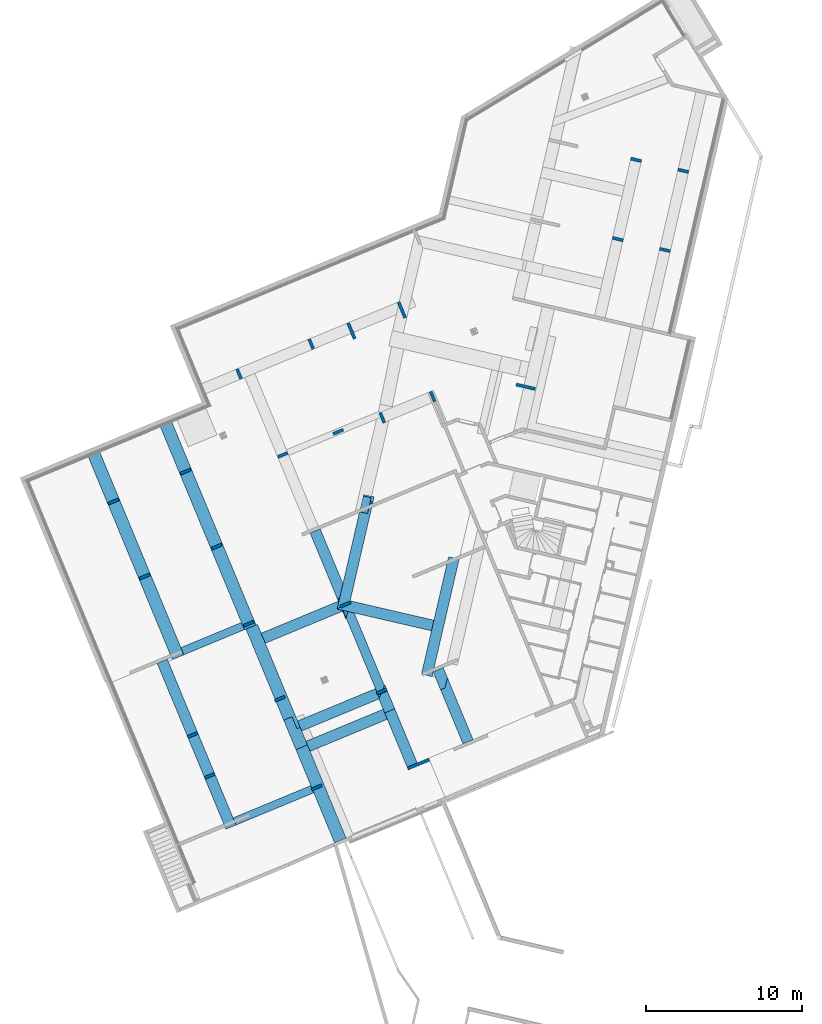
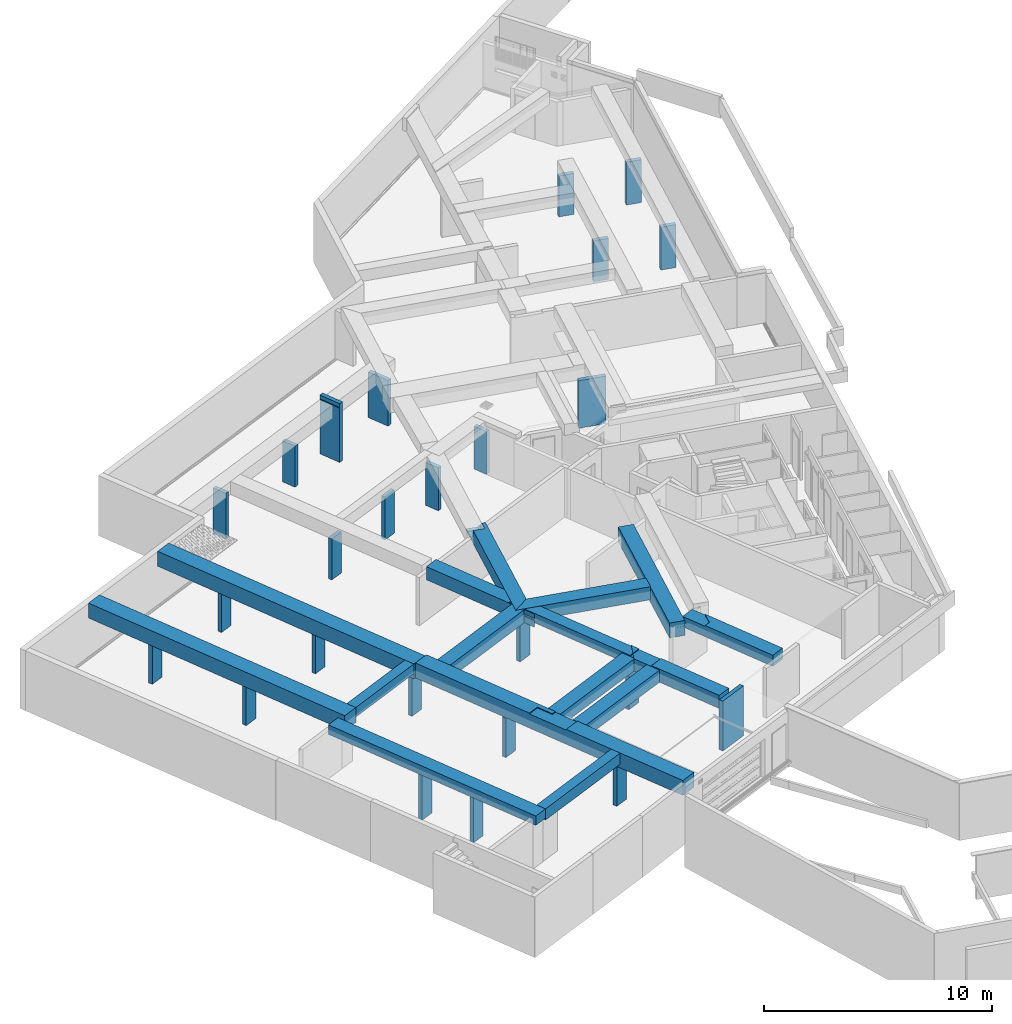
# One storey, part 3 of 20: 25 columns, 16 beams.
"""IFC2X3 building model written with IfcOpenShell, lengths in metres."""

from ifc_helpers import new_model, entity, si_unit, converted_unit, derived_unit, money_unit, direction, frame, origin_with_axes, place, context, subcontext, project, spatial, faceted_brep, material, type_object, element, save


model = new_model("IFC2X3")

# Units and contexts
model_context = context("Model", 3, precision=1e-05, world=origin_with_axes(), true_north=direction((0.0, 1.0)))
body_context = subcontext(model_context, "Body", "Model", "MODEL_VIEW")
ifc_project = project(units=[si_unit("LENGTHUNIT", "METRE"), si_unit("AREAUNIT", "SQUARE_METRE"), si_unit("VOLUMEUNIT", "CUBIC_METRE"), converted_unit("PLANEANGLEUNIT", "DEGREE", entity("IfcPlaneAngleMeasure", 0.0174532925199), si_unit("PLANEANGLEUNIT", "RADIAN"), dimensions=[0, 0, 0, 0, 0, 0, 0]), si_unit("SOLIDANGLEUNIT", "STERADIAN"), money_unit("EUR"), converted_unit("TIMEUNIT", "Year", entity("IfcTimeMeasure", 31556926.0), si_unit("TIMEUNIT", "SECOND"), dimensions=[0, 0, 1, 0, 0, 0, 0]), si_unit("MASSUNIT", "GRAM", prefix="KILO"), si_unit("THERMODYNAMICTEMPERATUREUNIT", "DEGREE_CELSIUS"), si_unit("LUMINOUSINTENSITYUNIT", "LUMEN"), si_unit("ENERGYUNIT", "JOULE", prefix="MEGA"), derived_unit("THERMALCONDUCTANCEUNIT", [(si_unit("POWERUNIT", "WATT"), 1), (si_unit("LENGTHUNIT", "METRE"), -1), (si_unit("THERMODYNAMICTEMPERATUREUNIT", "KELVIN"), -1)]), derived_unit("SPECIFICHEATCAPACITYUNIT", [(si_unit("ENERGYUNIT", "JOULE"), 1), (si_unit("MASSUNIT", "GRAM", prefix="KILO"), -1), (si_unit("THERMODYNAMICTEMPERATUREUNIT", "KELVIN"), -1)]), derived_unit("MASSDENSITYUNIT", [(si_unit("MASSUNIT", "GRAM", prefix="KILO"), 1), (si_unit("VOLUMEUNIT", "CUBIC_METRE"), -1)])], contexts=[model_context])

# Site, building, storey
site_placement = place(None, origin_with_axes())
site = spatial("IfcSite", under=ifc_project, at=site_placement, Name="Site", CompositionType="ELEMENT")
building_placement = place(site_placement, origin_with_axes())
building = spatial("IfcBuilding", under=site, at=building_placement, Name="Bâtiment", CompositionType="ELEMENT")
storey_placement = place(building_placement, frame((0.0, 0.0, -2.9), z_axis=(0.0, 0.0, 1.0), x_axis=(1.0, 0.0, 0.0)))
storey = spatial("IfcBuildingStorey", under=building, at=storey_placement, Name="Sous-sol", CompositionType="ELEMENT", Elevation=-2.9)

# Columns
ifc_material = material(Name="Béton")
column_type_1 = type_object("IfcColumnType", Name="Béton 200 x 700", PredefinedType="COLUMN")
column_1_placement = place(storey_placement, frame((-20.5314217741, -1.93745984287, 0.0), z_axis=(0.0, 0.0, 1.0), x_axis=(-0.383112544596, 0.923701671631, 0.0)))
element("IfcColumn", 1, at=column_1_placement, inside=storey, type_object=column_type_1, material=ifc_material, Name="Pot-002", ObjectType="COLUMN", context=body_context, shape_type="Brep", body=[
    faceted_brep([(-0.1, 0.35, 2.3), (0.1, 0.35, 2.3), (0.1, 0.35, 0.0), (-0.1, 0.35, 0.0), (-0.1, -0.35, 2.3), (0.1, -0.35, 2.3), (0.1, -0.35, 0.0), (-0.1, -0.35, 0.0)], [[[0, 1, 2, 3]], [[4, 5, 1, 0]], [[1, 5, 6, 2]], [[7, 3, 2, 6]], [[4, 0, 3, 7]], [[5, 4, 7, 6]]]),
])
for number, where, z_axis, x_axis, name in (
    (2, (-34.91941555, -6.4002306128, 0.0), (0.0, 0.0, 1.0), (0.383112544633, -0.923701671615, 0.0), "Pot-002"),
    (3, (-32.9265307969, -11.2051658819, 0.0), (0.0, 0.0, 1.0), (0.383112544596, -0.923701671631, 0.0), "Pot-002"),
):
    element("IfcColumn", number, at=place(storey_placement, frame(where, z_axis=z_axis, x_axis=x_axis)), inside=storey, type_object=column_type_1, material=ifc_material, Name=name, ObjectType="COLUMN", context=body_context, shape_type="Brep", body=[
        faceted_brep([(-0.1, 0.35, 2.1), (0.1, 0.35, 2.1), (0.1, 0.35, 0.0), (-0.1, 0.35, 0.0), (-0.1, -0.35, 2.1), (0.1, -0.35, 2.1), (0.1, -0.35, 0.0), (-0.1, -0.35, 0.0)], [[[0, 1, 2, 3]], [[4, 5, 1, 0]], [[1, 5, 6, 2]], [[7, 3, 2, 6]], [[4, 0, 3, 7]], [[5, 4, 7, 6]]]),
    ])
for number, where, z_axis, x_axis, name in (
    (4, (-17.7506110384, -18.5607654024, 0.0), (0.0, 0.0, 1.0), (0.383112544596, -0.923701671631, 0.0), "Pot-002"),
    (5, (-20.0575764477, -12.9985674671, 0.0), (0.0, 0.0, 1.0), (0.383112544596, -0.923701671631, 0.0), "Pot-002"),
):
    element("IfcColumn", number, at=place(storey_placement, frame(where, z_axis=z_axis, x_axis=x_axis)), inside=storey, type_object=column_type_1, material=ifc_material, Name=name, ObjectType="COLUMN", context=body_context, shape_type="Brep", body=[
        faceted_brep([(-0.1, 0.35, 2.2), (0.1, 0.35, 2.2), (0.1, 0.35, 0.0), (-0.1, 0.35, 0.0), (-0.1, -0.35, 2.2), (0.1, -0.35, 2.2), (0.1, -0.35, 0.0), (-0.1, -0.35, 0.0)], [[[0, 1, 2, 3]], [[4, 5, 1, 0]], [[1, 5, 6, 2]], [[7, 3, 2, 6]], [[4, 0, 3, 7]], [[5, 4, 7, 6]]]),
    ])
for number, where, z_axis, x_axis, name in (
    (6, (-30.300907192, -4.48466788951, 0.0), (0.0, 0.0, 1.0), (0.383112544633, -0.923701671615, 0.0), "Pot-002"),
    (7, (-28.3080224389, -9.28960315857, 0.0), (0.0, 0.0, 1.0), (0.383112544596, -0.923701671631, 0.0), "Pot-002"),
):
    element("IfcColumn", number, at=place(storey_placement, frame(where, z_axis=z_axis, x_axis=x_axis)), inside=storey, type_object=column_type_1, material=ifc_material, Name=name, ObjectType="COLUMN", context=body_context, shape_type="Brep", body=[
        faceted_brep([(-0.1, 0.35, 2.1), (0.1, 0.35, 2.1), (0.1, 0.35, 0.0), (-0.1, 0.35, 0.0), (-0.1, -0.35, 2.1), (0.1, -0.35, 2.1), (0.1, -0.35, 0.0), (-0.1, -0.35, 0.0)], [[[0, 1, 2, 3]], [[4, 5, 1, 0]], [[1, 5, 6, 2]], [[7, 3, 2, 6]], [[4, 0, 3, 7]], [[5, 4, 7, 6]]]),
    ])
column_2_placement = place(storey_placement, frame((-24.2670847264, -19.0324867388, 0.0), z_axis=(0.0, 0.0, 1.0), x_axis=(0.383112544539, -0.923701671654, 0.0)))
element("IfcColumn", 8, at=column_2_placement, inside=storey, type_object=column_type_1, material=ifc_material, Name="Pot-002", ObjectType="COLUMN", context=body_context, shape_type="Brep", body=[
    faceted_brep([(0.1, -0.35, 2.1), (-0.1, -0.35, 2.1), (-0.1, -0.35, 0.0), (0.1, -0.35, 0.0), (0.1, 0.35, 2.1), (-0.1, 0.35, 2.1), (-0.1, 0.35, 0.0), (0.1, 0.35, 0.0)], [[[0, 1, 2, 3]], [[4, 5, 1, 0]], [[1, 5, 6, 2]], [[7, 3, 2, 6]], [[4, 0, 3, 7]], [[5, 4, 7, 6]]]),
])
column_3_placement = place(storey_placement, frame((-26.2595863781, -14.2284751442, 0.0), z_axis=(0.0, 0.0, 1.0), x_axis=(0.383112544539, -0.923701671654, 0.0)))
element("IfcColumn", 9, at=column_3_placement, inside=storey, type_object=column_type_1, material=ifc_material, Name="Pot-002", ObjectType="COLUMN", context=body_context, shape_type="Brep", body=[
    faceted_brep([(0.1, -0.35, 2.55500000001), (-0.1, -0.35, 2.55500000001), (-0.1, -0.35, 0.0), (0.1, -0.35, 0.0), (0.1, 0.35, 2.55500000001), (-0.1, 0.35, 2.55500000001), (-0.1, 0.35, 0.0), (0.1, 0.35, 0.0)], [[[0, 1, 2, 3]], [[4, 5, 1, 0]], [[1, 5, 6, 2]], [[7, 3, 2, 6]], [[4, 0, 3, 7]], [[5, 4, 7, 6]]]),
])
column_4_placement = place(storey_placement, frame((-21.9142521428, -24.705272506, 0.0), z_axis=(0.0, 0.0, 1.0), x_axis=(0.383112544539, -0.923701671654, 0.0)))
element("IfcColumn", 10, at=column_4_placement, inside=storey, type_object=column_type_1, material=ifc_material, Name="Pot-002", ObjectType="COLUMN", context=body_context, shape_type="Brep", body=[
    faceted_brep([(0.1, -0.35, 2.1), (-0.1, -0.35, 2.1), (-0.1, -0.35, 0.0), (0.1, -0.35, 0.0), (0.1, 0.35, 2.1), (-0.1, 0.35, 2.1), (-0.1, 0.35, 0.0), (0.1, 0.35, 0.0)], [[[0, 1, 2, 3]], [[4, 5, 1, 0]], [[1, 5, 6, 2]], [[7, 3, 2, 6]], [[4, 0, 3, 7]], [[5, 4, 7, 6]]]),
])
column_5_placement = place(storey_placement, frame((-17.7107237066, -1.03820325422, 0.0), z_axis=(0.0, 0.0, 1.0), x_axis=(0.923701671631, 0.383112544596, 0.0)))
element("IfcColumn", 11, at=column_5_placement, inside=storey, type_object=column_type_1, material=ifc_material, Name="Pot-002", ObjectType="COLUMN", context=body_context, shape_type="Brep", body=[
    faceted_brep([(-0.1, 0.35, 2.3), (0.1, 0.35, 2.3), (0.1, 0.35, 0.0), (-0.1, 0.35, 0.0), (-0.1, -0.35, 2.3), (0.1, -0.35, 2.3), (0.1, -0.35, 0.0), (-0.1, -0.35, 0.0)], [[[0, 1, 2, 3]], [[4, 5, 1, 0]], [[1, 5, 6, 2]], [[7, 3, 2, 6]], [[4, 0, 3, 7]], [[5, 4, 7, 6]]]),
])
column_6_placement = place(storey_placement, frame((-2.62843882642, 10.4007564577, 0.0), z_axis=(0.0, 0.0, 1.0), x_axis=(0.224876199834, 0.974387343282, 0.0)))
element("IfcColumn", 12, at=column_6_placement, inside=storey, type_object=column_type_1, material=ifc_material, Name="Pot-002", ObjectType="COLUMN", context=body_context, shape_type="Brep", body=[
    faceted_brep([(-0.1, 0.35, 2.2), (0.1, 0.35, 2.2), (0.1, 0.35, 0.0), (-0.1, 0.35, 0.0), (-0.1, -0.35, 2.2), (0.1, -0.35, 2.2), (0.1, -0.35, 0.0), (-0.1, -0.35, 0.0)], [[[0, 1, 2, 3]], [[4, 5, 1, 0]], [[1, 5, 6, 2]], [[7, 3, 2, 6]], [[4, 0, 3, 7]], [[5, 4, 7, 6]]]),
])
column_7_placement = place(storey_placement, frame((-26.8798801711, 1.76530756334, 0.0), z_axis=(0.0, 0.0, 1.0), x_axis=(0.923701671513, 0.38311254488, 0.0)))
element("IfcColumn", 13, at=column_7_placement, inside=storey, type_object=column_type_1, material=ifc_material, Name="Pot-002", ObjectType="COLUMN", context=body_context, shape_type="Brep", body=[
    faceted_brep([(-0.1, 0.35, 2.45), (0.1, 0.35, 2.45), (0.1, 0.35, 0.0), (-0.1, 0.35, 0.0), (-0.1, -0.35, 2.45), (0.1, -0.35, 2.45), (0.1, -0.35, 0.0), (-0.1, -0.35, 0.0)], [[[0, 1, 2, 3]], [[4, 5, 1, 0]], [[1, 5, 6, 2]], [[7, 3, 2, 6]], [[4, 0, 3, 7]], [[5, 4, 7, 6]]]),
])
column_8_placement = place(storey_placement, frame((0.392161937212, 9.70364023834, 0.0), z_axis=(0.0, 0.0, 1.0), x_axis=(0.224876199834, 0.974387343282, 0.0)))
element("IfcColumn", 14, at=column_8_placement, inside=storey, type_object=column_type_1, material=ifc_material, Name="Pot-002", ObjectType="COLUMN", context=body_context, shape_type="Brep", body=[
    faceted_brep([(-0.1, 0.35, 2.3), (0.1, 0.35, 2.3), (0.1, 0.35, 0.0), (-0.1, 0.35, 0.0), (-0.1, -0.35, 2.3), (0.1, -0.35, 2.3), (0.1, -0.35, 0.0), (-0.1, -0.35, 0.0)], [[[0, 1, 2, 3]], [[4, 5, 1, 0]], [[1, 5, 6, 2]], [[7, 3, 2, 6]], [[4, 0, 3, 7]], [[5, 4, 7, 6]]]),
])
for number, where, z_axis, x_axis, name in (
    (15, (-22.2614884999, 3.68075065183, 0.0), (0.0, 0.0, 1.0), (0.923701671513, 0.38311254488, 0.0), "Pot-002"),
    (16, (-1.45757992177, 15.4740816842, 0.0), (0.0, 0.0, 1.0), (0.224876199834, 0.974387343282, 0.0), "Pot-002"),
):
    element("IfcColumn", number, at=place(storey_placement, frame(where, z_axis=z_axis, x_axis=x_axis)), inside=storey, type_object=column_type_1, material=ifc_material, Name=name, ObjectType="COLUMN", context=body_context, shape_type="Brep", body=[
        faceted_brep([(-0.1, 0.35, 2.2), (0.1, 0.35, 2.2), (0.1, 0.35, 0.0), (-0.1, 0.35, 0.0), (-0.1, -0.35, 2.2), (0.1, -0.35, 2.2), (0.1, -0.35, 0.0), (-0.1, -0.35, 0.0)], [[[0, 1, 2, 3]], [[4, 5, 1, 0]], [[1, 5, 6, 2]], [[7, 3, 2, 6]], [[4, 0, 3, 7]], [[5, 4, 7, 6]]]),
    ])
column_9_placement = place(storey_placement, frame((1.5630208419, 14.7769654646, 0.0), z_axis=(0.0, 0.0, 1.0), x_axis=(0.224876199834, 0.974387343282, 0.0)))
element("IfcColumn", 17, at=column_9_placement, inside=storey, type_object=column_type_1, material=ifc_material, Name="Pot-002", ObjectType="COLUMN", context=body_context, shape_type="Brep", body=[
    faceted_brep([(-0.1, 0.35, 2.3), (0.1, 0.35, 2.3), (0.1, 0.35, 0.0), (-0.1, 0.35, 0.0), (-0.1, -0.35, 2.3), (0.1, -0.35, 2.3), (0.1, -0.35, 0.0), (-0.1, -0.35, 0.0)], [[[0, 1, 2, 3]], [[4, 5, 1, 0]], [[1, 5, 6, 2]], [[7, 3, 2, 6]], [[4, 0, 3, 7]], [[5, 4, 7, 6]]]),
])
column_10_placement = place(storey_placement, frame((-24.0844179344, -3.42051127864, 0.0), z_axis=(0.0, 0.0, 1.0), x_axis=(-0.383112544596, 0.923701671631, 0.0)))
element("IfcColumn", 18, at=column_10_placement, inside=storey, type_object=column_type_1, material=ifc_material, Name="Pot-002", ObjectType="COLUMN", context=body_context, shape_type="Brep", body=[
    faceted_brep([(-0.1, 0.35, 2.2), (0.1, 0.35, 2.2), (0.1, 0.35, 0.0), (-0.1, 0.35, 0.0), (-0.1, -0.35, 2.2), (0.1, -0.35, 2.2), (0.1, -0.35, 0.0), (-0.1, -0.35, 0.0)], [[[0, 1, 2, 3]], [[4, 5, 1, 0]], [[1, 5, 6, 2]], [[7, 3, 2, 6]], [[4, 0, 3, 7]], [[5, 4, 7, 6]]]),
])
for number, where, z_axis, x_axis, name in (
    (19, (-29.8551311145, -21.3501729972, 0.0), (0.0, 0.0, 1.0), (0.383112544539, -0.923701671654, 0.0), "Pot-002"),
    (20, (-28.7667083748, -23.9744094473, 0.0), (0.0, 0.0, 1.0), (0.383112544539, -0.923701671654, 0.0), "Pot-002"),
):
    element("IfcColumn", number, at=place(storey_placement, frame(where, z_axis=z_axis, x_axis=x_axis)), inside=storey, type_object=column_type_1, material=ifc_material, Name=name, ObjectType="COLUMN", context=body_context, shape_type="Brep", body=[
        faceted_brep([(0.1, -0.35, 2.4), (-0.1, -0.35, 2.4), (-0.1, -0.35, 0.0), (0.1, -0.35, 0.0), (0.1, 0.35, 2.4), (-0.1, 0.35, 2.4), (-0.1, 0.35, 0.0), (0.1, 0.35, 0.0)], [[[0, 1, 2, 3]], [[4, 5, 1, 0]], [[1, 5, 6, 2]], [[7, 3, 2, 6]], [[4, 0, 3, 7]], [[5, 4, 7, 6]]]),
    ])
column_11_placement = place(storey_placement, frame((-14.4835857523, 0.316717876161, 0.0), z_axis=(0.0, 0.0, 1.0), x_axis=(0.923701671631, 0.383112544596, 0.0)))
element("IfcColumn", 21, at=column_11_placement, inside=storey, type_object=column_type_1, material=ifc_material, Name="Pot-002", ObjectType="COLUMN", context=body_context, shape_type="Brep", body=[
    faceted_brep([(-0.1, 0.35, 2.3), (0.1, 0.35, 2.3), (0.1, 0.35, 0.0), (-0.1, 0.35, 0.0), (-0.1, -0.35, 2.3), (0.1, -0.35, 2.3), (0.1, -0.35, 0.0), (-0.1, -0.35, 0.0)], [[[0, 1, 2, 3]], [[4, 5, 1, 0]], [[1, 5, 6, 2]], [[7, 3, 2, 6]], [[4, 0, 3, 7]], [[5, 4, 7, 6]]]),
])
column_type_2 = type_object("IfcColumnType", Name="Béton 200 x 1500", PredefinedType="COLUMN")
column_12_placement = place(storey_placement, frame((-15.3889451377, -23.2107690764, 0.0), z_axis=(0.0, 0.0, 1.0), x_axis=(0.383112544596, -0.923701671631, 0.0)))
element("IfcColumn", 22, at=column_12_placement, inside=storey, type_object=column_type_2, material=ifc_material, Name="Pot-002", ObjectType="COLUMN", context=body_context, shape_type="Brep", body=[
    faceted_brep([(-0.1, 0.749999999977, 2.67), (-0.1, -0.74990886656, 2.67), (0.1, -0.749999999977, 2.67), (0.1, 0.749999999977, 2.67), (-0.1, -0.749999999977, 2.55), (-0.1, -0.74990886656, 2.55), (-0.1, 0.749999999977, 0.0), (-0.1, -0.749999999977, 0.0), (0.1, -0.749999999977, 2.55), (0.1, -0.749999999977, 0.0), (0.1, 0.749999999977, 0.0)], [[[0, 1, 2, 3]], [[4, 5, 1, 0, 6, 7]], [[5, 8, 2, 1]], [[3, 2, 8, 9, 10]], [[0, 3, 10, 6]], [[5, 4, 8]], [[7, 6, 10, 9]], [[9, 8, 4, 7]]]),
])
column_type_3 = type_object("IfcColumnType", Name="Béton 200 x 1100", PredefinedType="COLUMN")
column_13_placement = place(storey_placement, frame((-19.6887386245, 4.52928208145, 0.0), z_axis=(0.0, 0.0, 1.0), x_axis=(0.923701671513, 0.38311254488, 0.0)))
element("IfcColumn", 23, at=column_13_placement, inside=storey, type_object=column_type_3, material=ifc_material, Name="Pot-002", ObjectType="COLUMN", context=body_context, shape_type="Brep", body=[
    faceted_brep([(0.1, 0.55, 0.0), (0.1, 0.55, 2.91), (0.1, -0.256619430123, 2.91), (0.1, -0.256619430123, 2.95), (0.1, 0.55, 2.95), (0.1, 0.55, 3.15), (0.1, -0.55, 3.15), (0.1, -0.55, 0.0), (-0.1, 0.55, 0.0), (-0.1, 0.55, 2.91), (-0.1, -0.536779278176, 2.91), (-0.1, -0.536779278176, 2.95), (-0.1, 0.55, 2.95), (-0.1, 0.55, 3.15), (-0.1, -0.55, 3.15), (-0.1, -0.55, 0.0)], [[[0, 1, 2, 3, 4, 5, 6, 7]], [[8, 9, 1, 0]], [[10, 2, 1, 9]], [[11, 3, 2, 10]], [[12, 4, 3, 11]], [[5, 4, 12, 13]], [[14, 6, 5, 13]], [[6, 14, 15, 7]], [[15, 8, 0, 7]], [[11, 10, 9, 8, 15, 14, 13, 12]]]),
])
column_14_placement = place(storey_placement, frame((-16.4572015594, 5.8695875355, 0.0), z_axis=(0.0, 0.0, 1.0), x_axis=(0.923701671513, 0.38311254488, 0.0)))
element("IfcColumn", 24, at=column_14_placement, inside=storey, type_object=column_type_3, material=ifc_material, Name="Pot-002", ObjectType="COLUMN", context=body_context, shape_type="Brep", body=[
    faceted_brep([(-0.1, 0.55, 2.45), (0.1, 0.55, 2.45), (0.1, 0.55, 0.0), (-0.1, 0.55, 0.0), (-0.1, -0.55, 2.45), (0.1, -0.55, 2.45), (0.1, -0.55, 0.0), (-0.1, -0.55, 0.0)], [[[0, 1, 2, 3]], [[4, 5, 1, 0]], [[1, 5, 6, 2]], [[7, 3, 2, 6]], [[4, 0, 3, 7]], [[5, 4, 7, 6]]]),
])
column_type_4 = type_object("IfcColumnType", Name="Béton 200 x 1260", PredefinedType="COLUMN")
column_15_placement = place(storey_placement, frame((-8.52941643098, 0.947299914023, 0.0), z_axis=(0.0, 0.0, 1.0), x_axis=(0.224876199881, 0.974387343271, 0.0)))
element("IfcColumn", 25, at=column_15_placement, inside=storey, type_object=column_type_4, material=ifc_material, Name="Pot-002", ObjectType="COLUMN", context=body_context, shape_type="Brep", body=[
    faceted_brep([(-0.1, 0.63, 2.55), (0.1, 0.63, 2.55), (0.1, 0.63, 0.0), (-0.1, 0.63, 0.0), (-0.1, -0.63, 2.55), (0.1, -0.63, 2.55), (0.1, -0.63, 0.0), (-0.1, -0.63, 0.0)], [[[0, 1, 2, 3]], [[4, 5, 1, 0]], [[1, 5, 6, 2]], [[7, 3, 2, 6]], [[4, 0, 3, 7]], [[5, 4, 7, 6]]]),
])

# Beams
beam_type_1 = type_object("IfcBeamType", Name="Béton 500 x 600", PredefinedType="BEAM")
beam_1_placement = place(storey_placement, frame((-27.170867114, -26.8885157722, 2.9), z_axis=(0.0, 0.0, 1.0), x_axis=(0.383112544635, -0.923701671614, 0.0)))
element("IfcBeam", 26, at=beam_1_placement, inside=storey, type_object=beam_type_1, material=ifc_material, Name="PoBA-002", ObjectType="BEAM", context=body_context, shape_type="Brep", body=[
    faceted_brep([(0.25, 5.39197192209, -0.6), (0.25, 0.0, -0.6), (-0.25, 0.0, -0.6), (-0.25, 5.39197192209, -0.6), (0.25, 5.39197192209, 0.0), (0.25, 0.0, 0.0), (-0.25, 0.0, 0.0), (-0.25, 5.39197192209, 0.0)], [[[0, 1, 2, 3]], [[4, 5, 1, 0]], [[1, 5, 6, 2]], [[3, 2, 6, 7]], [[7, 4, 0, 3]], [[7, 6, 5, 4]]]),
])
beam_type_2 = type_object("IfcBeamType", Name="Béton 800 x 800", PredefinedType="BEAM")
beam_2_placement = place(storey_placement, frame((-31.6035596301, -1.34391394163, 2.9), z_axis=(0.0, 0.0, 1.0), x_axis=(-0.923701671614, -0.383112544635, 0.0)))
element("IfcBeam", 27, at=beam_2_placement, inside=storey, type_object=beam_type_2, material=ifc_material, Name="PoBA-002", ObjectType="BEAM", context=body_context, shape_type="Brep", body=[
    faceted_brep([(-0.4, 0.0, -0.8), (-0.4, 14.1954480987, -0.8), (0.4, 14.1954480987, -0.8), (0.4, 0.0, -0.8), (-0.349999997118, 13.8488339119, -0.8), (0.350000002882, 13.8488339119, -0.8), (0.350000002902, 14.0488339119, -0.8), (-0.349999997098, 14.0488339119, -0.8), (-0.4, 0.0, 0.0), (-0.4, 14.1954480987, 0.0), (0.4, 14.1954480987, 0.0), (0.4, 0.0, 0.0), (0.350000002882, 13.8488339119, -0.344999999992), (-0.349999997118, 13.8488339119, -0.344999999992), (0.350000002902, 14.0488339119, -0.344999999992), (-0.349999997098, 14.0488339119, -0.344999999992)], [[[0, 1, 2, 3], [4, 5, 6, 7]], [[8, 9, 1, 0]], [[2, 1, 9, 10]], [[3, 2, 10, 11]], [[8, 0, 3, 11]], [[12, 5, 4, 13]], [[14, 6, 5, 12]], [[15, 7, 6, 14]], [[13, 4, 7, 15]], [[11, 10, 9, 8]], [[12, 13, 15, 14]]]),
])
beam_3_placement = place(storey_placement, frame((-36.2220679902, -3.25947666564, 2.9), z_axis=(0.0, 0.0, 1.0), x_axis=(-0.923701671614, -0.383112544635, 0.0)))
element("IfcBeam", 28, at=beam_3_placement, inside=storey, type_object=beam_type_2, material=ifc_material, Name="PoBA-002", ObjectType="BEAM", context=body_context, shape_type="Brep", body=[
    faceted_brep([(-0.4, 14.1954480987, -0.8), (0.4, 14.1954480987, -0.8), (0.4, 0.0, -0.8), (-0.4, 0.0, -0.8), (-0.4, 14.1954480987, 0.0), (0.4, 14.1954480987, 0.0), (0.4, 0.0, 0.0), (-0.4, 0.0, 0.0)], [[[0, 1, 2, 3]], [[0, 4, 5, 1]], [[1, 5, 6, 2]], [[3, 2, 6, 7]], [[4, 0, 3, 7]], [[5, 4, 7, 6]]]),
])
beam_4_placement = place(storey_placement, frame((-26.0727352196, -14.4179618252, 2.9), z_axis=(0.0, 0.0, 1.0), x_axis=(-0.923701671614, -0.383112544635, 0.0)))
element("IfcBeam", 29, at=beam_4_placement, inside=storey, type_object=beam_type_2, material=ifc_material, Name="PoBA-002", ObjectType="BEAM", context=body_context, shape_type="Brep", body=[
    faceted_brep([(-0.4, 0.0, 0.0), (-0.4, 7.14788059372, 0.0), (-0.4, 7.14788059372, -0.045), (-0.4, 8.35970646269, -0.045), (-0.4, 8.35970646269, 0.0), (-0.4, 14.8189292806, 0.0), (-0.4, 14.8189292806, -0.8), (-0.4, 0.0, -0.8), (0.4, 6.3178933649, 0.0), (-0.178016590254, 6.31421173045, 0.0), (-0.178016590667, 7.14812397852, 0.0), (0.4, 0.0, 0.0), (-0.178016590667, 7.14812397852, -0.045), (0.4, 6.3178933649, -0.045), (0.4, 8.35899999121, -0.045), (-0.178016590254, 6.31421173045, -0.045), (0.4, 8.35899999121, 0.0), (0.4, 14.8189292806, 0.0), (0.4, 14.8189292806, -0.8), (0.4, 0.0, -0.8)], [[[0, 1, 2, 3, 4, 5, 6, 7]], [[8, 9, 10, 1, 0, 11]], [[10, 12, 2, 1]], [[13, 14, 3, 2, 12, 15]], [[3, 14, 16, 4]], [[17, 5, 4, 16]], [[18, 6, 5, 17]], [[7, 6, 18, 19]], [[0, 7, 19, 11]], [[13, 15, 9, 8]], [[15, 12, 10, 9]], [[16, 14, 13, 8, 11, 19, 18, 17]]]),
])
beam_type_3 = type_object("IfcBeamType", Name="Béton 500 x 510", PredefinedType="BEAM")
beam_5_placement = place(storey_placement, frame((-30.5099112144, -15.987665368, 2.9), z_axis=(0.0, 0.0, 1.0), x_axis=(0.383112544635, -0.923701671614, 0.0)))
element("IfcBeam", 30, at=beam_5_placement, inside=storey, type_object=beam_type_3, material=ifc_material, Name="PoBA-002", ObjectType="BEAM", context=body_context, shape_type="Brep", body=[
    faceted_brep([(0.25, 0.0, -0.510000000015), (-0.25, 0.0, -0.510000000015), (-0.25, 4.20000000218, -0.510000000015), (0.25, 4.20000000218, -0.510000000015), (0.25, 0.0, 0.0), (-0.25, 0.0, 0.0), (-0.25, 4.20000000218, 0.0), (0.25, 4.20000000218, 0.0)], [[[0, 1, 2, 3]], [[4, 5, 1, 0]], [[1, 5, 6, 2]], [[7, 3, 2, 6]], [[4, 0, 3, 7]], [[5, 4, 7, 6]]]),
])
beam_type_4 = type_object("IfcBeamType", Name="Béton 700 x 650", PredefinedType="BEAM")
beam_6_placement = place(storey_placement, frame((-22.8327189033, -22.2297876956, 2.85), z_axis=(0.0, 0.0, 1.0), x_axis=(0.383112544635, -0.923701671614, 0.0)))
element("IfcBeam", 31, at=beam_6_placement, inside=storey, type_object=beam_type_4, material=ifc_material, Name="PoBA-002", ObjectType="BEAM", context=body_context, shape_type="Brep", body=[
    faceted_brep([(0.35, 5.75159844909, 0.0), (-0.35, 5.75159844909, 0.0), (-0.35, 0.4, 0.0), (0.35, 0.4, 0.0), (0.35, 5.75159844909, -0.65), (-0.35, 5.75159844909, -0.65), (-0.35, 0.4, -0.65), (0.35, 0.4, -0.65)], [[[0, 1, 2, 3]], [[0, 4, 5, 1]], [[1, 5, 6, 2]], [[2, 6, 7, 3]], [[4, 0, 3, 7]], [[5, 4, 7, 6]]]),
])
beam_7_placement = place(storey_placement, frame((-23.3719877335, -20.9295861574, 2.85), z_axis=(0.0, 0.0, 1.0), x_axis=(0.383112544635, -0.923701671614, 0.0)))
element("IfcBeam", 32, at=beam_7_placement, inside=storey, type_object=beam_type_4, material=ifc_material, Name="PoBA-002", ObjectType="BEAM", context=body_context, shape_type="Brep", body=[
    faceted_brep([(0.35, 5.75159844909, 0.0), (0.299999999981, 5.80159844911, 0.0), (-0.35, 5.80159845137, 0.0), (-0.35, 0.4, 0.0), (0.35, 0.4, 0.0), (-0.35, 6.45159844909, -0.65), (-0.35, 6.45159844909, 0.0), (-0.3, 6.40159844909, 0.0), (-0.3, 6.40159844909, -0.45), (0.299999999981, 5.80159844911, -0.45), (0.35, 5.75159844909, -0.65), (-0.35, 5.80159844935, -0.45), (-0.35, 6.40159844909, 0.0), (-0.35, 0.4, -0.65), (-0.35, 6.40159844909, -0.45), (0.35, 0.4, -0.65)], [[[0, 1, 2, 3, 4]], [[5, 6, 7, 8, 9, 1, 0, 10]], [[2, 1, 9, 11]], [[12, 6, 5, 13, 3, 2, 11, 14]], [[4, 3, 13, 15]], [[15, 10, 0, 4]], [[6, 12, 7]], [[8, 7, 12, 14]], [[9, 8, 14, 11]], [[13, 5, 10, 15]]]),
])
beam_type_5 = type_object("IfcBeamType", Name="Béton 700 x 700", PredefinedType="BEAM")
beam_8_placement = place(storey_placement, frame((-25.3330968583, -15.1571837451, 2.9), z_axis=(0.0, 0.0, 1.0), x_axis=(0.383112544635, -0.923701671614, 0.0)))
element("IfcBeam", 33, at=beam_8_placement, inside=storey, type_object=beam_type_5, material=ifc_material, Name="PoBA-002", ObjectType="BEAM", context=body_context, shape_type="Brep", body=[
    faceted_brep([(0.35, 5.35159845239, -5.22747178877e-10), (0.35, 0.0, 0.0), (0.35, 0.0, -0.7), (0.35, 5.35159845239, -0.7), (-0.349999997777, 5.35159845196, 0.0), (-0.35, 0.0, 0.0), (0.275419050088, 5.35159845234, 0.0), (0.0840130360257, 5.08347705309, 0.0), (-0.291571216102, 5.351598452, 0.0), (-0.35, 0.0, -0.7), (-0.349999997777, 5.35159845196, -0.7), (-0.291571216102, 5.351598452, -0.7), (0.0840130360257, 5.08347705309, -0.7), (0.275419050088, 5.35159845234, -0.7)], [[[0, 1, 2, 3]], [[4, 5, 1, 0, 6, 7, 8]], [[9, 2, 1, 5]], [[10, 11, 12, 13, 3, 2, 9]], [[0, 3, 13, 6]], [[10, 9, 5, 4]], [[13, 12, 7, 6]], [[8, 7, 12, 11]], [[8, 11, 10, 4]]]),
])
beam_9_placement = place(storey_placement, frame((-22.0099739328, -8.2870765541, 2.9), z_axis=(0.0, 0.0, 1.0), x_axis=(-0.923701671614, -0.383112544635, 0.0)))
element("IfcBeam", 34, at=beam_9_placement, inside=storey, type_object=beam_type_5, material=ifc_material, Name="PoBA-002", ObjectType="BEAM", context=body_context, shape_type="Brep", body=[
    faceted_brep([(0.349999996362, 5.98600904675, -4.47035253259e-09), (0.349999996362, 5.98600904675, -0.23), (0.3, 5.91596908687, -0.23), (0.299999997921, 5.91596908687, 0.0), (0.349999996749, 5.42279941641, -0.35), (0.349999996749, 5.42279941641, -0.23), (0.349999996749, 5.3482184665, 0.0), (0.349999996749, 5.3482184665, -0.7), (0.349999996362, 5.98600904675, -0.7), (0.349999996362, 5.98600904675, -0.35), (0.3, 5.42279941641, -0.23), (0.3, 5.42279941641, -0.35), (0.3, 5.91596908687, -0.35), (0.299999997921, 5.91596908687, -0.5), (0.299999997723, 5.38391237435, -0.5), (0.299999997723, 5.38391237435, 0.0), (0.0483981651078, 5.56352543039, -0.5), (0.0483981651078, 5.56352543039, -0.7)], [[[0, 1, 2, 3]], [[4, 5, 1, 0, 6, 7, 8, 9]], [[5, 10, 2, 1]], [[10, 11, 12, 13, 14, 15, 3, 2]], [[0, 3, 15, 6]], [[4, 11, 10, 5]], [[6, 15, 14, 16, 17, 7]], [[17, 8, 7]], [[13, 12, 9, 8, 17, 16]], [[4, 9, 12, 11]], [[14, 13, 16]]]),
    faceted_brep([(0.35, 0.0, 0.0), (0.349999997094, 4.78122820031, 0.0), (0.299999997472, 4.71118823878, 0.0), (0.299999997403, 4.52384562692, -4.47035253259e-09), (0.211408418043, 4.58708922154, 0.0), (-0.35, 3.80066873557, 0.0), (-0.35, 0.0, 0.0), (0.35, 0.0, -0.7), (0.349999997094, 4.78122820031, -0.7), (0.211408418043, 4.58708922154, -0.5), (0.299999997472, 4.71118823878, -0.5), (-0.35, 3.80066873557, -0.7), (0.299999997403, 4.52384562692, -0.5), (-0.35, 0.0, -0.7)], [[[0, 1, 2, 3, 4, 5, 6]], [[1, 0, 7, 8]], [[4, 9, 10, 2, 1, 8, 11, 5]], [[10, 12, 3, 2]], [[3, 12, 9, 4]], [[11, 13, 6, 5]], [[6, 13, 7, 0]], [[8, 7, 13, 11]], [[9, 12, 10]]]),
])
beam_10_placement = place(storey_placement, frame((-20.1855519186, -13.0249139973, 2.9), z_axis=(0.0, 0.0, 1.0), x_axis=(-0.224876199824, -0.974387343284, 0.0)))
element("IfcBeam", 35, at=beam_10_placement, inside=storey, type_object=beam_type_5, material=ifc_material, Name="PoBA-002", ObjectType="BEAM", context=body_context, shape_type="Brep", body=[
    faceted_brep([(0.35, 5.85058234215, -0.7), (0.35, -0.35, -0.7), (-0.35, 0.35, -0.7), (-0.35, 5.85058234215, -0.7), (0.35, 5.85058234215, 0.0), (0.35, -0.35, 0.0), (-0.35, 0.35, 0.0), (-0.35, 5.85058234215, 0.0)], [[[0, 1, 2, 3]], [[4, 5, 1, 0]], [[1, 5, 6, 2]], [[3, 2, 6, 7]], [[7, 4, 0, 3]], [[7, 6, 5, 4]]]),
])
beam_11_placement = place(storey_placement, frame((-17.7359310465, -18.5919872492, 2.9), z_axis=(0.0, 0.0, 1.0), x_axis=(-0.923701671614, -0.383112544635, 0.0)))
element("IfcBeam", 36, at=beam_11_placement, inside=storey, type_object=beam_type_5, material=ifc_material, Name="PoBA-002", ObjectType="BEAM", context=body_context, shape_type="Brep", body=[
    faceted_brep([(-0.35, -0.35, 0.0), (-0.35, 0.0917570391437, 0.0), (-0.35, 0.0917570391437, -0.045), (-0.35, 1.31556204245, -0.045), (-0.35, 1.31556204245, 0.0), (-0.35, 5.06553623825, 0.0), (-0.35, 5.06553623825, -0.7), (-0.35, -0.35, -0.7), (0.0922419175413, 0.0922419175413, 0.0), (0.0922419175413, 0.0922419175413, -0.045), (0.35, 0.35, -0.045), (0.35, 1.3149438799, -0.045), (0.35, 1.3149438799, 0.0), (0.35, 5.06553623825, 0.0), (0.35, 5.06553623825, -0.7), (0.35, 0.35, -0.7)], [[[0, 1, 2, 3, 4, 5, 6, 7]], [[1, 0, 8]], [[8, 9, 2, 1]], [[10, 11, 3, 2, 9]], [[3, 11, 12, 4]], [[13, 5, 4, 12]], [[5, 13, 14, 6]], [[14, 15, 7, 6]], [[15, 10, 9, 8, 0, 7]], [[13, 12, 11, 10, 15, 14]]]),
])
beam_12_placement = place(storey_placement, frame((-20.1855519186, -13.0249139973, 2.9), z_axis=(0.0, 0.0, 1.0), x_axis=(0.974387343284, -0.224876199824, 0.0)))
element("IfcBeam", 37, at=beam_12_placement, inside=storey, type_object=beam_type_5, material=ifc_material, Name="PoBA-002", ObjectType="BEAM", context=body_context, shape_type="Brep", body=[
    faceted_brep([(-0.35, 7.08571884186, -0.6), (0.173929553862, 7.08571884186, -0.6), (0.173929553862, 6.83571884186, -0.35), (0.35, 6.83571884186, -0.35), (0.35, 7.18571884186, -0.7), (-0.35, 7.18571884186, -0.7), (-0.35, 6.04577791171, -0.6), (0.173929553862, 6.04577791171, -0.6), (0.173929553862, 6.71571884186, -0.23), (0.173929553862, 6.60575934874, -0.23), (0.173929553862, 6.60575934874, -0.35), (0.173929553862, 6.04577791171, 0.0), (0.173929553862, 6.48571884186, 0.0), (0.35, 6.73145219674, -0.35), (0.35, 6.73145219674, -0.245733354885), (0.35, 6.48571884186, 0.0), (0.35, 0.35, 0.0), (0.35, 0.35, -0.7), (-0.35, -0.35, -0.7), (-0.35, -0.35, 0.0), (-0.35, 6.04577791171, 0.0), (0.327960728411, 6.71571884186, -0.23)], [[[0, 1, 2, 3, 4, 5]], [[0, 6, 7, 1]], [[8, 9, 10, 2, 1, 7, 11, 12]], [[2, 10, 13, 3]], [[4, 3, 13, 14, 15, 16, 17]], [[5, 4, 17, 18]], [[18, 19, 20, 6, 0, 5]], [[11, 7, 6, 20]], [[21, 9, 8]], [[10, 9, 21, 14, 13]], [[16, 15, 12, 11, 20, 19]], [[15, 14, 21, 8, 12]], [[18, 17, 16, 19]]]),
])
beam_type_6 = type_object("IfcBeamType", Name="Béton 700 x 500", PredefinedType="BEAM")
beam_13_placement = place(storey_placement, frame((-31.8022546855, -16.6356005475, 2.9), z_axis=(0.0, 0.0, 1.0), x_axis=(-0.923701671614, -0.383112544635, 0.0)))
element("IfcBeam", 38, at=beam_13_placement, inside=storey, type_object=beam_type_6, material=ifc_material, Name="PoBA-002", ObjectType="BEAM", context=body_context, shape_type="Brep", body=[
    faceted_brep([(-0.35, 11.4896596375, -0.5), (0.35, 11.4896596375, -0.5), (0.35, 0.0, -0.5), (-0.35, 0.0, -0.5), (-0.35, 11.4896596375, 0.0), (0.35, 11.4896596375, 0.0), (0.35, 0.0, 0.0), (-0.35, 0.0, 0.0)], [[[0, 1, 2, 3]], [[0, 4, 5, 1]], [[1, 5, 6, 2]], [[3, 2, 6, 7]], [[4, 0, 3, 7]], [[5, 4, 7, 6]]]),
])
beam_type_7 = type_object("IfcBeamType", Name="Béton 600 x 500", PredefinedType="BEAM")
beam_14_placement = place(storey_placement, frame((-20.0300320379, -13.0608060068, 2.9), z_axis=(0.0, 0.0, 1.0), x_axis=(-0.923701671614, -0.383112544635, 0.0)))
element("IfcBeam", 39, at=beam_14_placement, inside=storey, type_object=beam_type_7, material=ifc_material, Name="PoBA-002", ObjectType="BEAM", context=body_context, shape_type="Brep", body=[
    faceted_brep([(0.299999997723, 0.215869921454, 0.0), (0.299999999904, 6.08052993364, 0.0), (0.0922419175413, 6.08030214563, 0.0), (-0.3, 5.68806022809, 0.0), (-0.3, 0.644196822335, 0.0), (0.299999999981, 6.28806022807, -0.045), (0.299999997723, 6.08052993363, -0.045), (0.299999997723, 0.215869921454, -0.5), (0.299999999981, 6.28806022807, -0.5), (0.0922419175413, 6.08030214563, -0.045), (-0.3, 5.68806022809, -0.5), (-0.3, 0.644196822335, -0.5)], [[[0, 1, 2, 3, 4]], [[5, 6, 1, 0, 7, 8]], [[6, 9, 2, 1]], [[2, 9, 5, 8, 10, 3]], [[3, 10, 11, 4]], [[11, 7, 0, 4]], [[6, 5, 9]], [[10, 8, 7, 11]]]),
    faceted_brep([(0.211408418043, -0.580953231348, 0.0), (0.299999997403, -0.644196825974, -4.47035253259e-09), (0.299999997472, -0.456854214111, 0.0), (0.299999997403, -0.644196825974, -0.5), (0.211408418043, -0.580953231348, -0.5), (0.299999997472, -0.456854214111, -0.5)], [[[0, 1, 2]], [[3, 1, 0, 4]], [[1, 3, 5, 2]], [[2, 5, 4, 0]], [[5, 3, 4]]]),
])
beam_type_8 = type_object("IfcBeamType", Name="Béton 700 x 600", PredefinedType="BEAM")
beam_15_placement = place(storey_placement, frame((-14.1332147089, -17.1686818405, 2.9), z_axis=(0.0, 0.0, 1.0), x_axis=(-0.923701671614, -0.383112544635, 0.0)))
element("IfcBeam", 40, at=beam_15_placement, inside=storey, type_object=beam_type_8, material=ifc_material, Name="PoBA-002", ObjectType="BEAM", context=body_context, shape_type="Brep", body=[
    faceted_brep([(-0.35, 0.0, -0.6), (-0.35, 0.0, -0.045), (-0.35, 0.701779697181, -0.045), (-0.35, 0.701779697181, 0.0), (-0.35, 4.99999999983, 0.0), (-0.35, 4.99999999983, -0.6), (0.35, 0.0, -0.05), (0.35, 0.0, -0.045), (0.341956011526, 0.0, -0.6), (0.341956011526, 0.0, -0.05), (0.0428333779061, 1.25309920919, -0.045), (0.35, 1.25282795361, -0.045), (0.0428333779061, 1.25309920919, 0.0), (0.35, 1.25282795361, 0.0), (0.35, 4.99999999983, 0.0), (0.35, 4.99999999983, -0.6), (0.35, 0.0112680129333, -0.6), (0.35, 0.0112680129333, -0.05)], [[[0, 1, 2, 3, 4, 5]], [[6, 7, 1, 0, 8, 9]], [[10, 2, 1, 7, 11]], [[10, 12, 3, 2]], [[3, 12, 13, 14, 4]], [[4, 14, 15, 5]], [[5, 15, 16, 8, 0]], [[13, 11, 7, 6, 17, 16, 15, 14]], [[16, 17, 9, 8]], [[9, 17, 6]], [[11, 13, 12, 10]]]),
])
beam_type_9 = type_object("IfcBeamType", Name="Béton 700 x 800", PredefinedType="BEAM")
beam_16_placement = place(storey_placement, frame((-13.1272767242, -10.0159110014, 2.85), z_axis=(0.0, 0.0, 1.0), x_axis=(-0.974387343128, 0.224876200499, 0.0)))
element("IfcBeam", 41, at=beam_16_placement, inside=storey, type_object=beam_type_9, material=ifc_material, Name="PoBA-002", ObjectType="BEAM", context=body_context, shape_type="Brep", body=[
    faceted_brep([(-0.35, 7.70207361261, -0.18), (-0.35, 7.70207361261, -0.3), (-0.35, 7.71458555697, -0.3), (-0.35, 7.71458555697, -0.8), (-0.35, 0.0, -0.8), (-0.35, 0.0, 0.0), (-0.35, 7.71458555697, 0.0), (-0.35, 7.71458555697, -0.18), (0.0984264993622, 7.71458555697, -0.3), (0.0984264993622, 7.71458555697, -0.18), (0.35, 7.71458555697, 0.0), (0.35, 7.71458555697, -0.8), (0.35, 0.0, -0.8), (0.35, 0.0, 0.0)], [[[0, 1, 2, 3, 4, 5, 6, 7]], [[8, 1, 0, 9]], [[8, 2, 1]], [[8, 9, 7, 6, 10, 11, 3, 2]], [[12, 4, 3, 11]], [[13, 5, 4, 12]], [[5, 13, 10, 6]], [[9, 0, 7]], [[13, 12, 11, 10]]]),
])

save(model, "model.ifc")
